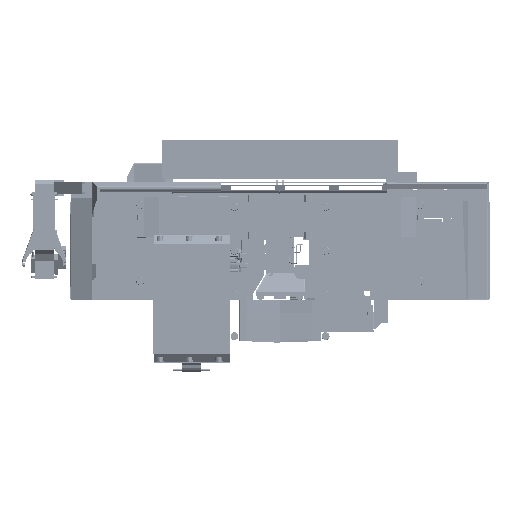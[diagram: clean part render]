
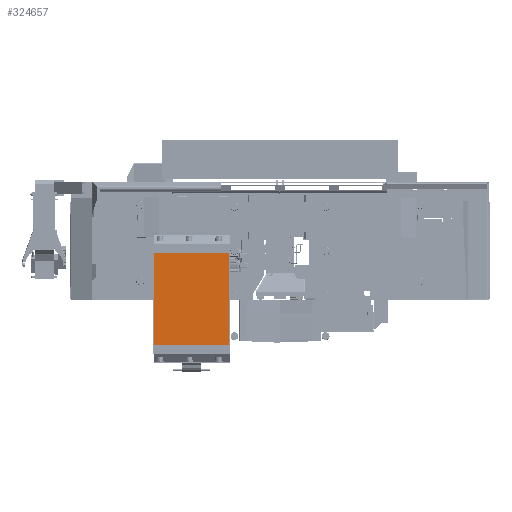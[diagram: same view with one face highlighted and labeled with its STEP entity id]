
A CAD part, front view. The second image highlights one B-rep face of the part: STEP entity #324657.
In plain terms, the highlighted planar face has unit normal (0, -1, 0).
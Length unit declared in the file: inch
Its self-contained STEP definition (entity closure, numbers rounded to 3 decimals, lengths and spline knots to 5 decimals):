
#48823 = ORIENTED_EDGE ( 'NONE', *, *, #614849, .T. ) ;
#80713 = CARTESIAN_POINT ( 'NONE',  ( -68.105, -19.4571, 39.16 ) ) ;
#82350 = AXIS2_PLACEMENT_3D ( 'NONE', #397242, #235463, #511966 ) ;
#102291 = CARTESIAN_POINT ( 'NONE',  ( -68.105, -19.4571, 33.76 ) ) ;
#107687 = LINE ( 'NONE', #441762, #399311 ) ;
#109313 = ORIENTED_EDGE ( 'NONE', *, *, #661650, .T. ) ;
#131874 = CARTESIAN_POINT ( 'NONE',  ( -68.21, -19.4571, 33.76 ) ) ;
#132377 = CARTESIAN_POINT ( 'NONE',  ( -21.605, -19.4571, -22.54 ) ) ;
#138166 = DIRECTION ( 'NONE',  ( 0., 0., -1. ) ) ;
#149078 = VERTEX_POINT ( 'NONE', #385710 ) ;
#155539 = EDGE_CURVE ( 'NONE', #681303, #557323, #185665, .T. ) ;
#177941 = PLANE ( 'NONE',  #82350 ) ;
#183058 = EDGE_CURVE ( 'NONE', #557323, #261811, #107687, .T. ) ;
#185665 = LINE ( 'NONE', #131874, #224513 ) ;
#205376 = ORIENTED_EDGE ( 'NONE', *, *, #155539, .F. ) ;
#224513 = VECTOR ( 'NONE', #351055, 39.37008 ) ;
#230063 = CARTESIAN_POINT ( 'NONE',  ( -68.105, -19.4571, -22.54 ) ) ;
#235463 = DIRECTION ( 'NONE',  ( 0., 1., 0. ) ) ;
#253148 = LINE ( 'NONE', #80713, #299913 ) ;
#261811 = VERTEX_POINT ( 'NONE', #132377 ) ;
#280061 = DIRECTION ( 'NONE',  ( 0., 0., -1. ) ) ;
#299913 = VECTOR ( 'NONE', #138166, 39.37008 ) ;
#324657 = ADVANCED_FACE ( 'NONE', ( #504895 ), #177941, .F. ) ;
#335280 = VECTOR ( 'NONE', #388279, 39.37008 ) ;
#351055 = DIRECTION ( 'NONE',  ( 1., 0., 0. ) ) ;
#373353 = ORIENTED_EDGE ( 'NONE', *, *, #183058, .F. ) ;
#385710 = CARTESIAN_POINT ( 'NONE',  ( -68.105, -19.4571, -22.54 ) ) ;
#388279 = DIRECTION ( 'NONE',  ( 1., 0., 0. ) ) ;
#395451 = EDGE_LOOP ( 'NONE', ( #205376, #109313, #48823, #373353 ) ) ;
#397242 = CARTESIAN_POINT ( 'NONE',  ( -68.105, -19.4571, 39.16 ) ) ;
#399311 = VECTOR ( 'NONE', #280061, 39.37008 ) ;
#441762 = CARTESIAN_POINT ( 'NONE',  ( -21.605, -19.4571, 39.16 ) ) ;
#452799 = LINE ( 'NONE', #230063, #335280 ) ;
#504895 = FACE_OUTER_BOUND ( 'NONE', #395451, .T. ) ;
#505482 = CARTESIAN_POINT ( 'NONE',  ( -21.605, -19.4571, 33.76 ) ) ;
#511966 = DIRECTION ( 'NONE',  ( 0., 0., 1. ) ) ;
#557323 = VERTEX_POINT ( 'NONE', #505482 ) ;
#614849 = EDGE_CURVE ( 'NONE', #149078, #261811, #452799, .T. ) ;
#661650 = EDGE_CURVE ( 'NONE', #681303, #149078, #253148, .T. ) ;
#681303 = VERTEX_POINT ( 'NONE', #102291 ) ;
